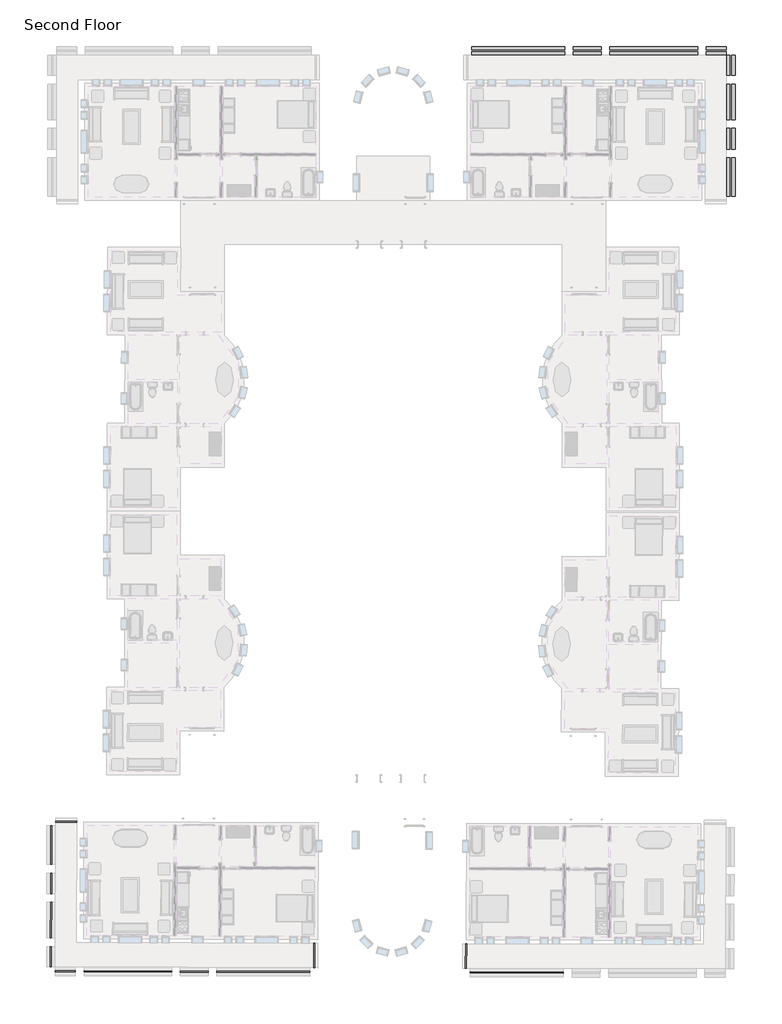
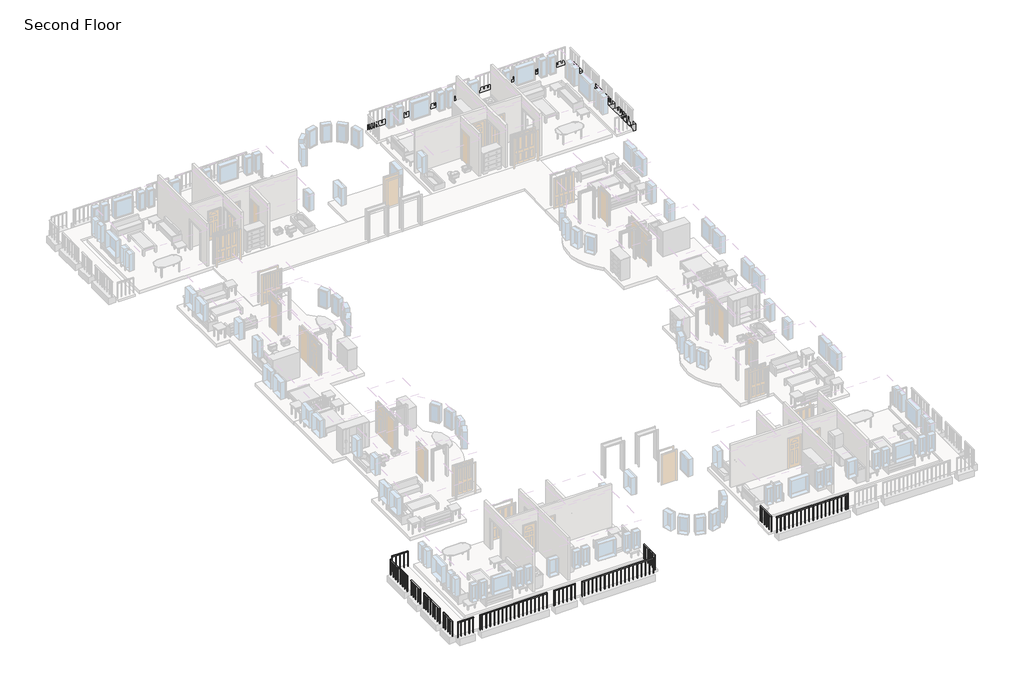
# One storey, part 4 of 8: 12 railings, 2 beams.
"""IFC4 building model written with IfcOpenShell, lengths in millimetres."""

from ifc_helpers import new_model, si_unit, frame, origin, place, context, project, spatial, polyline, outline, extrude, element, save

model = new_model("IFC4")

# Units and contexts
model_context = context("Model", 3, world=origin())
ifc_project = project(units=[si_unit("LENGTHUNIT", "METRE", prefix="MILLI")], contexts=[model_context])

# Site, building, storey
site = spatial("IfcSite", under=ifc_project)
building = spatial("IfcBuilding", under=site)
storey = spatial("IfcBuildingStorey", under=building, Name="Second Floor", Elevation=3048.0)

# Beams
placement = place(None, origin())
element("IfcBeam", 1, ObjectType="M_Concrete-Rectangular Beam : 450 x 450", at=placement, inside=storey, context=model_context, shape_type="SweptSolid", body=[
    extrude(outline(polyline([(-1643.3416203, 4481.1188386), (-1643.3416203, 4031.1188386), (-2693.3416203, 4031.1188386), (-2693.3416203, 4481.1188386), (-1643.3416203, 4481.1188386)])), frame((0.0, 0.0, 2598.0), z_axis=(0.0, 0.0, 1.0), x_axis=(1.0, 0.0, 0.0)), (0.0, 0.0, 1.0), 450.0),
    extrude(outline(polyline([(-14885.3416203, 4031.1188386), (-14885.3416203, 4481.1188386), (-10043.3416203, 4481.1188386), (-10043.3416203, 4031.1188386), (-14885.3416203, 4031.1188386)])), frame((0.0, 0.0, 2598.0), z_axis=(0.0, 0.0, 1.0), x_axis=(1.0, 0.0, 0.0)), (0.0, 0.0, 1.0), 450.0),
    extrude(outline(polyline([(-3143.3416203, 4481.1188386), (-3143.3416203, 4031.1188386), (-7693.3416203, 4031.1188386), (-7693.3416203, 4481.1188386), (-3143.3416203, 4481.1188386)])), frame((0.0, 0.0, 2598.0), z_axis=(0.0, 0.0, 1.0), x_axis=(1.0, 0.0, 0.0)), (0.0, 0.0, 1.0), 450.0),
    extrude(outline(polyline([(-8143.3416203, 4481.1188386), (-8143.3416203, 4031.1188386), (-9593.3416203, 4031.1188386), (-9593.3416203, 4481.1188386), (-8143.3416203, 4481.1188386)])), frame((0.0, 0.0, 2598.0), z_axis=(0.0, 0.0, 1.0), x_axis=(1.0, 0.0, 0.0)), (0.0, 0.0, 1.0), 450.0),
])
element("IfcBeam", 2, ObjectType="M_Concrete-Rectangular Beam : 450 x 450", at=placement, inside=storey, context=model_context, shape_type="SweptSolid", body=[
    extrude(outline(polyline([(-1643.3416203, 4031.1188386), (-1193.3416203, 4031.1188386), (-1193.3416203, 2981.1188386), (-1643.3416203, 2981.1188386), (-1643.3416203, 4031.1188386)])), frame((0.0, 0.0, 2598.0), z_axis=(0.0, 0.0, 1.0), x_axis=(1.0, 0.0, 0.0)), (0.0, 0.0, 1.0), 450.0),
    extrude(outline(polyline([(-1193.3416203, -3289.8811614), (-1643.3416203, -3289.8811614), (-1643.3416203, -1295.3811614), (-1193.3416203, -1295.3811614), (-1193.3416203, -3289.8811614)])), frame((0.0, 0.0, 2598.0), z_axis=(0.0, 0.0, 1.0), x_axis=(1.0, 0.0, 0.0)), (0.0, 0.0, 1.0), 450.0),
    extrude(outline(polyline([(-1643.3416203, 2531.1188386), (-1193.3416203, 2531.1188386), (-1193.3416203, 681.1188386), (-1643.3416203, 681.1188386), (-1643.3416203, 2531.1188386)])), frame((0.0, 0.0, 2598.0), z_axis=(0.0, 0.0, 1.0), x_axis=(1.0, 0.0, 0.0)), (0.0, 0.0, 1.0), 450.0),
    extrude(outline(polyline([(-1643.3416203, 231.1188386), (-1193.3416203, 231.1188386), (-1193.3416203, -845.3811614), (-1643.3416203, -845.3811614), (-1643.3416203, 231.1188386)])), frame((0.0, 0.0, 2598.0), z_axis=(0.0, 0.0, 1.0), x_axis=(1.0, 0.0, 0.0)), (0.0, 0.0, 1.0), 450.0),
])

# Railings
element("IfcRailing", 3, ObjectType="1100mm", at=placement, inside=storey, context=model_context, shape_type="SweptSolid", body=[
    extrude(outline(polyline([(-14954.7371889, -43662.8708828), (-14954.5924462, -43612.8710923), (-10112.6127346, -43626.8879749), (-10112.7574773, -43676.8877654), (-14954.7371889, -43662.8708828)])), frame((0.0, 0.0, 4098.0), z_axis=(0.0, 0.0, 1.0), x_axis=(1.0, 0.0, 0.0)), (0.0, 0.0, 1.0), 50.0),
    extrude(outline(polyline([(-10292.1481682, -43638.8682963), (-10267.1482729, -43638.9406676), (-10267.2206443, -43663.9405629), (-10292.2205395, -43663.8681915), (-10292.1481682, -43638.8682963)])), frame((0.0, 0.0, 3048.0), z_axis=(0.0, 0.0, 1.0), x_axis=(1.0, 0.0, 0.0)), (0.0, 0.0, 1.0), 1050.0),
    extrude(outline(polyline([(-10567.1470159, -43638.0722115), (-10542.1471207, -43638.1445828), (-10542.219492, -43663.144478), (-10567.2193872, -43663.0721067), (-10567.1470159, -43638.0722115)])), frame((0.0, 0.0, 3048.0), z_axis=(0.0, 0.0, 1.0), x_axis=(1.0, 0.0, 0.0)), (0.0, 0.0, 1.0), 1050.0),
    extrude(outline(polyline([(-10842.1458636, -43637.2761266), (-10817.1459684, -43637.348498), (-10817.2183397, -43662.3483932), (-10842.218235, -43662.2760219), (-10842.1458636, -43637.2761266)])), frame((0.0, 0.0, 3048.0), z_axis=(0.0, 0.0, 1.0), x_axis=(1.0, 0.0, 0.0)), (0.0, 0.0, 1.0), 1050.0),
    extrude(outline(polyline([(-11117.1447113, -43636.4800418), (-11092.1448161, -43636.5524131), (-11092.2171874, -43661.5523084), (-11117.2170827, -43661.479937), (-11117.1447113, -43636.4800418)])), frame((0.0, 0.0, 3048.0), z_axis=(0.0, 0.0, 1.0), x_axis=(1.0, 0.0, 0.0)), (0.0, 0.0, 1.0), 1050.0),
    extrude(outline(polyline([(-11392.1435591, -43635.683957), (-11367.1436638, -43635.7563283), (-11367.2160352, -43660.7562236), (-11392.2159304, -43660.6838522), (-11392.1435591, -43635.683957)])), frame((0.0, 0.0, 3048.0), z_axis=(0.0, 0.0, 1.0), x_axis=(1.0, 0.0, 0.0)), (0.0, 0.0, 1.0), 1050.0),
    extrude(outline(polyline([(-11667.1424068, -43634.8878721), (-11642.1425115, -43634.9602435), (-11642.2148829, -43659.9601387), (-11667.2147781, -43659.8877674), (-11667.1424068, -43634.8878721)])), frame((0.0, 0.0, 3048.0), z_axis=(0.0, 0.0, 1.0), x_axis=(1.0, 0.0, 0.0)), (0.0, 0.0, 1.0), 1050.0),
    extrude(outline(polyline([(-11942.1412545, -43634.0917873), (-11917.1413593, -43634.1641587), (-11917.2137306, -43659.1640539), (-11942.2136259, -43659.0916826), (-11942.1412545, -43634.0917873)])), frame((0.0, 0.0, 3048.0), z_axis=(0.0, 0.0, 1.0), x_axis=(1.0, 0.0, 0.0)), (0.0, 0.0, 1.0), 1050.0),
    extrude(outline(polyline([(-12217.1401022, -43633.2957025), (-12192.140207, -43633.3680738), (-12192.2125783, -43658.3679691), (-12217.2124736, -43658.2955977), (-12217.1401022, -43633.2957025)])), frame((0.0, 0.0, 3048.0), z_axis=(0.0, 0.0, 1.0), x_axis=(1.0, 0.0, 0.0)), (0.0, 0.0, 1.0), 1050.0),
    extrude(outline(polyline([(-12492.13895, -43632.4996177), (-12467.1390547, -43632.571989), (-12467.2114261, -43657.5718843), (-12492.2113213, -43657.4995129), (-12492.13895, -43632.4996177)])), frame((0.0, 0.0, 3048.0), z_axis=(0.0, 0.0, 1.0), x_axis=(1.0, 0.0, 0.0)), (0.0, 0.0, 1.0), 1050.0),
    extrude(outline(polyline([(-12767.1377977, -43631.7035328), (-12742.1379024, -43631.7759042), (-12742.2102738, -43656.7757994), (-12767.210169, -43656.7034281), (-12767.1377977, -43631.7035328)])), frame((0.0, 0.0, 3048.0), z_axis=(0.0, 0.0, 1.0), x_axis=(1.0, 0.0, 0.0)), (0.0, 0.0, 1.0), 1050.0),
    extrude(outline(polyline([(-13042.1366454, -43630.907448), (-13017.1367502, -43630.9798194), (-13017.2091215, -43655.9797146), (-13042.2090168, -43655.9073433), (-13042.1366454, -43630.907448)])), frame((0.0, 0.0, 3048.0), z_axis=(0.0, 0.0, 1.0), x_axis=(1.0, 0.0, 0.0)), (0.0, 0.0, 1.0), 1050.0),
    extrude(outline(polyline([(-13317.1354931, -43630.1113632), (-13292.1355979, -43630.1837345), (-13292.2079692, -43655.1836298), (-13317.2078645, -43655.1112584), (-13317.1354931, -43630.1113632)])), frame((0.0, 0.0, 3048.0), z_axis=(0.0, 0.0, 1.0), x_axis=(1.0, 0.0, 0.0)), (0.0, 0.0, 1.0), 1050.0),
    extrude(outline(polyline([(-13592.1343409, -43629.3152784), (-13567.1344456, -43629.3876497), (-13567.206817, -43654.387545), (-13592.2067122, -43654.3151736), (-13592.1343409, -43629.3152784)])), frame((0.0, 0.0, 3048.0), z_axis=(0.0, 0.0, 1.0), x_axis=(1.0, 0.0, 0.0)), (0.0, 0.0, 1.0), 1050.0),
    extrude(outline(polyline([(-13867.1331886, -43628.5191935), (-13842.1332933, -43628.5915649), (-13842.2056647, -43653.5914601), (-13867.2055599, -43653.5190888), (-13867.1331886, -43628.5191935)])), frame((0.0, 0.0, 3048.0), z_axis=(0.0, 0.0, 1.0), x_axis=(1.0, 0.0, 0.0)), (0.0, 0.0, 1.0), 1050.0),
    extrude(outline(polyline([(-14142.1320363, -43627.7231087), (-14117.1321411, -43627.7954801), (-14117.2045124, -43652.7953753), (-14142.2044076, -43652.723004), (-14142.1320363, -43627.7231087)])), frame((0.0, 0.0, 3048.0), z_axis=(0.0, 0.0, 1.0), x_axis=(1.0, 0.0, 0.0)), (0.0, 0.0, 1.0), 1050.0),
    extrude(outline(polyline([(-14417.130884, -43626.9270239), (-14392.1309888, -43626.9993952), (-14392.2033601, -43651.9992905), (-14417.2032554, -43651.9269191), (-14417.130884, -43626.9270239)])), frame((0.0, 0.0, 3048.0), z_axis=(0.0, 0.0, 1.0), x_axis=(1.0, 0.0, 0.0)), (0.0, 0.0, 1.0), 1050.0),
    extrude(outline(polyline([(-14692.1297317, -43626.1309391), (-14667.1298365, -43626.2033104), (-14667.2022078, -43651.2032057), (-14692.2021031, -43651.1308343), (-14692.1297317, -43626.1309391)])), frame((0.0, 0.0, 3048.0), z_axis=(0.0, 0.0, 1.0), x_axis=(1.0, 0.0, 0.0)), (0.0, 0.0, 1.0), 1050.0),
    extrude(outline(polyline([(-10137.6488155, -43639.3155512), (-10112.6489203, -43639.3879226), (-10112.7212916, -43664.3878178), (-10137.7211869, -43664.3154465), (-10137.6488155, -43639.3155512)])), frame((0.0, 0.0, 3048.0), z_axis=(0.0, 0.0, 1.0), x_axis=(1.0, 0.0, 0.0)), (0.0, 0.0, 1.0), 1050.0),
    extrude(outline(polyline([(-14954.6286318, -43625.3710399), (-14929.6287366, -43625.4434113), (-14929.7011079, -43650.4433065), (-14954.7010032, -43650.3709351), (-14954.6286318, -43625.3710399)])), frame((0.0, 0.0, 3048.0), z_axis=(0.0, 0.0, 1.0), x_axis=(1.0, 0.0, 0.0)), (0.0, 0.0, 1.0), 1050.0),
])
element("IfcRailing", 4, ObjectType="1100mm", at=placement, inside=storey, context=model_context, shape_type="SweptSolid", body=[
    extrude(outline(polyline([(-15154.0126374, -43412.2929595), (-15204.0124279, -43412.1482168), (-15200.3214891, -42137.1535592), (-15150.3216986, -42137.2983019), (-15154.0126374, -43412.2929595)])), frame((0.0, 0.0, 4098.0), z_axis=(0.0, 0.0, 1.0), x_axis=(1.0, 0.0, 0.0)), (0.0, 0.0, 1.0), 50.0),
    extrude(outline(polyline([(-15188.3643266, -42324.6889592), (-15188.2919553, -42299.689064), (-15163.29206, -42299.7614353), (-15163.3644314, -42324.7613306), (-15188.3643266, -42324.6889592)])), frame((0.0, 0.0, 3048.0), z_axis=(0.0, 0.0, 1.0), x_axis=(1.0, 0.0, 0.0)), (0.0, 0.0, 1.0), 1050.0),
    extrude(outline(polyline([(-15189.1604114, -42599.6878069), (-15189.0880401, -42574.6879117), (-15164.0881448, -42574.760283), (-15164.1605162, -42599.7601783), (-15189.1604114, -42599.6878069)])), frame((0.0, 0.0, 3048.0), z_axis=(0.0, 0.0, 1.0), x_axis=(1.0, 0.0, 0.0)), (0.0, 0.0, 1.0), 1050.0),
    extrude(outline(polyline([(-15189.9564963, -42874.6866547), (-15189.8841249, -42849.6867594), (-15164.8842297, -42849.7591308), (-15164.956601, -42874.759026), (-15189.9564963, -42874.6866547)])), frame((0.0, 0.0, 3048.0), z_axis=(0.0, 0.0, 1.0), x_axis=(1.0, 0.0, 0.0)), (0.0, 0.0, 1.0), 1050.0),
    extrude(outline(polyline([(-15190.7525811, -43149.6855024), (-15190.6802097, -43124.6856071), (-15165.6803145, -43124.7579785), (-15165.7526858, -43149.7578737), (-15190.7525811, -43149.6855024)])), frame((0.0, 0.0, 3048.0), z_axis=(0.0, 0.0, 1.0), x_axis=(1.0, 0.0, 0.0)), (0.0, 0.0, 1.0), 1050.0),
    extrude(outline(polyline([(-15187.8939128, -42162.1896401), (-15187.8215415, -42137.1897449), (-15162.8216462, -42137.2621162), (-15162.8940176, -42162.2620115), (-15187.8939128, -42162.1896401)])), frame((0.0, 0.0, 3048.0), z_axis=(0.0, 0.0, 1.0), x_axis=(1.0, 0.0, 0.0)), (0.0, 0.0, 1.0), 1050.0),
    extrude(outline(polyline([(-15191.5124802, -43412.1844025), (-15191.4401089, -43387.1845072), (-15166.4402136, -43387.2568786), (-15166.512585, -43412.2567738), (-15191.5124802, -43412.1844025)])), frame((0.0, 0.0, 3048.0), z_axis=(0.0, 0.0, 1.0), x_axis=(1.0, 0.0, 0.0)), (0.0, 0.0, 1.0), 1050.0),
])
element("IfcRailing", 5, ObjectType="1100mm", at=placement, inside=storey, context=model_context, shape_type="SweptSolid", body=[
    extrude(outline(polyline([(-23286.0575364, -43588.7526169), (-23286.2022791, -43638.7524074), (-28128.1819906, -43624.7355247), (-28128.0372479, -43574.7357342), (-23286.0575364, -43588.7526169)])), frame((0.0, 0.0, 4098.0), z_axis=(0.0, 0.0, 1.0), x_axis=(1.0, 0.0, 0.0)), (0.0, 0.0, 1.0), 50.0),
    extrude(outline(polyline([(-27948.5741857, -43587.7553081), (-27948.6465571, -43612.7552034), (-27973.6464523, -43612.682832), (-27973.574081, -43587.6829368), (-27948.5741857, -43587.7553081)])), frame((0.0, 0.0, 3048.0), z_axis=(0.0, 0.0, 1.0), x_axis=(1.0, 0.0, 0.0)), (0.0, 0.0, 1.0), 1050.0),
    extrude(outline(polyline([(-27673.575338, -43588.551393), (-27673.6477093, -43613.5512882), (-27698.6476046, -43613.4789169), (-27698.5752332, -43588.4790216), (-27673.575338, -43588.551393)])), frame((0.0, 0.0, 3048.0), z_axis=(0.0, 0.0, 1.0), x_axis=(1.0, 0.0, 0.0)), (0.0, 0.0, 1.0), 1050.0),
    extrude(outline(polyline([(-27398.5764903, -43589.3474778), (-27398.6488616, -43614.347373), (-27423.6487569, -43614.2750017), (-27423.5763855, -43589.2751064), (-27398.5764903, -43589.3474778)])), frame((0.0, 0.0, 3048.0), z_axis=(0.0, 0.0, 1.0), x_axis=(1.0, 0.0, 0.0)), (0.0, 0.0, 1.0), 1050.0),
    extrude(outline(polyline([(-27123.5776425, -43590.1435626), (-27123.6500139, -43615.1434579), (-27148.6499091, -43615.0710865), (-27148.5775378, -43590.0711913), (-27123.5776425, -43590.1435626)])), frame((0.0, 0.0, 3048.0), z_axis=(0.0, 0.0, 1.0), x_axis=(1.0, 0.0, 0.0)), (0.0, 0.0, 1.0), 1050.0),
    extrude(outline(polyline([(-26848.5787948, -43590.9396474), (-26848.6511662, -43615.9395427), (-26873.6510614, -43615.8671713), (-26873.5786901, -43590.8672761), (-26848.5787948, -43590.9396474)])), frame((0.0, 0.0, 3048.0), z_axis=(0.0, 0.0, 1.0), x_axis=(1.0, 0.0, 0.0)), (0.0, 0.0, 1.0), 1050.0),
    extrude(outline(polyline([(-26573.5799471, -43591.7357323), (-26573.6523184, -43616.7356275), (-26598.6522137, -43616.6632562), (-26598.5798423, -43591.6633609), (-26573.5799471, -43591.7357323)])), frame((0.0, 0.0, 3048.0), z_axis=(0.0, 0.0, 1.0), x_axis=(1.0, 0.0, 0.0)), (0.0, 0.0, 1.0), 1050.0),
    extrude(outline(polyline([(-26298.5810994, -43592.5318171), (-26298.6534707, -43617.5317123), (-26323.653366, -43617.459341), (-26323.5809946, -43592.4594458), (-26298.5810994, -43592.5318171)])), frame((0.0, 0.0, 3048.0), z_axis=(0.0, 0.0, 1.0), x_axis=(1.0, 0.0, 0.0)), (0.0, 0.0, 1.0), 1050.0),
    extrude(outline(polyline([(-26023.5822516, -43593.3279019), (-26023.654623, -43618.3277972), (-26048.6545182, -43618.2554258), (-26048.5821469, -43593.2555306), (-26023.5822516, -43593.3279019)])), frame((0.0, 0.0, 3048.0), z_axis=(0.0, 0.0, 1.0), x_axis=(1.0, 0.0, 0.0)), (0.0, 0.0, 1.0), 1050.0),
    extrude(outline(polyline([(-25748.5834039, -43594.1239868), (-25748.6557753, -43619.123882), (-25773.6556705, -43619.0515107), (-25773.5832992, -43594.0516154), (-25748.5834039, -43594.1239868)])), frame((0.0, 0.0, 3048.0), z_axis=(0.0, 0.0, 1.0), x_axis=(1.0, 0.0, 0.0)), (0.0, 0.0, 1.0), 1050.0),
    extrude(outline(polyline([(-25473.5845562, -43594.9200716), (-25473.6569275, -43619.9199668), (-25498.6568228, -43619.8475955), (-25498.5844514, -43594.8477002), (-25473.5845562, -43594.9200716)])), frame((0.0, 0.0, 3048.0), z_axis=(0.0, 0.0, 1.0), x_axis=(1.0, 0.0, 0.0)), (0.0, 0.0, 1.0), 1050.0),
    extrude(outline(polyline([(-25198.5857085, -43595.7161564), (-25198.6580798, -43620.7160517), (-25223.6579751, -43620.6436803), (-25223.5856037, -43595.6437851), (-25198.5857085, -43595.7161564)])), frame((0.0, 0.0, 3048.0), z_axis=(0.0, 0.0, 1.0), x_axis=(1.0, 0.0, 0.0)), (0.0, 0.0, 1.0), 1050.0),
    extrude(outline(polyline([(-24923.5868608, -43596.5122412), (-24923.6592321, -43621.5121365), (-24948.6591273, -43621.4397651), (-24948.586756, -43596.4398699), (-24923.5868608, -43596.5122412)])), frame((0.0, 0.0, 3048.0), z_axis=(0.0, 0.0, 1.0), x_axis=(1.0, 0.0, 0.0)), (0.0, 0.0, 1.0), 1050.0),
    extrude(outline(polyline([(-24648.588013, -43597.3083261), (-24648.6603844, -43622.3082213), (-24673.6602796, -43622.23585), (-24673.5879083, -43597.2359547), (-24648.588013, -43597.3083261)])), frame((0.0, 0.0, 3048.0), z_axis=(0.0, 0.0, 1.0), x_axis=(1.0, 0.0, 0.0)), (0.0, 0.0, 1.0), 1050.0),
    extrude(outline(polyline([(-24373.5891653, -43598.1044109), (-24373.6615367, -43623.1043061), (-24398.6614319, -43623.0319348), (-24398.5890606, -43598.0320395), (-24373.5891653, -43598.1044109)])), frame((0.0, 0.0, 3048.0), z_axis=(0.0, 0.0, 1.0), x_axis=(1.0, 0.0, 0.0)), (0.0, 0.0, 1.0), 1050.0),
    extrude(outline(polyline([(-24098.5903176, -43598.9004957), (-24098.6626889, -43623.900391), (-24123.6625842, -43623.8280196), (-24123.5902128, -43598.8281244), (-24098.5903176, -43598.9004957)])), frame((0.0, 0.0, 3048.0), z_axis=(0.0, 0.0, 1.0), x_axis=(1.0, 0.0, 0.0)), (0.0, 0.0, 1.0), 1050.0),
    extrude(outline(polyline([(-23823.5914699, -43599.6965805), (-23823.6638412, -43624.6964758), (-23848.6637365, -43624.6241044), (-23848.5913651, -43599.6242092), (-23823.5914699, -43599.6965805)])), frame((0.0, 0.0, 3048.0), z_axis=(0.0, 0.0, 1.0), x_axis=(1.0, 0.0, 0.0)), (0.0, 0.0, 1.0), 1050.0),
    extrude(outline(polyline([(-23548.5926221, -43600.4926654), (-23548.6649935, -43625.4925606), (-23573.6648887, -43625.4201893), (-23573.5925174, -43600.420294), (-23548.5926221, -43600.4926654)])), frame((0.0, 0.0, 3048.0), z_axis=(0.0, 0.0, 1.0), x_axis=(1.0, 0.0, 0.0)), (0.0, 0.0, 1.0), 1050.0),
    extrude(outline(polyline([(-28103.0735383, -43587.3080532), (-28103.1459097, -43612.3079485), (-28128.1458049, -43612.2355771), (-28128.0734336, -43587.2356819), (-28103.0735383, -43587.3080532)])), frame((0.0, 0.0, 3048.0), z_axis=(0.0, 0.0, 1.0), x_axis=(1.0, 0.0, 0.0)), (0.0, 0.0, 1.0), 1050.0),
    extrude(outline(polyline([(-23286.093722, -43601.2525645), (-23286.1660934, -43626.2524598), (-23311.1659886, -43626.1800884), (-23311.0936173, -43601.1801932), (-23286.093722, -43601.2525645)])), frame((0.0, 0.0, 3048.0), z_axis=(0.0, 0.0, 1.0), x_axis=(1.0, 0.0, 0.0)), (0.0, 0.0, 1.0), 1050.0),
])
element("IfcRailing", 6, ObjectType="1100mm", at=placement, inside=storey, context=model_context, shape_type="SweptSolid", body=[
    extrude(outline(polyline([(-28578.0353624, -43573.43305), (-28578.1801051, -43623.4328405), (-30028.1740294, -43619.2353023), (-30028.0292867, -43569.2355118), (-28578.0353624, -43573.43305)])), frame((0.0, 0.0, 4098.0), z_axis=(0.0, 0.0, 1.0), x_axis=(1.0, 0.0, 0.0)), (0.0, 0.0, 1.0), 50.0),
    extrude(outline(polyline([(-29940.565839, -43581.9887591), (-29940.6382104, -43606.9886544), (-29965.6381056, -43606.916283), (-29965.5657343, -43581.9163878), (-29940.565839, -43581.9887591)])), frame((0.0, 0.0, 3048.0), z_axis=(0.0, 0.0, 1.0), x_axis=(1.0, 0.0, 0.0)), (0.0, 0.0, 1.0), 1050.0),
    extrude(outline(polyline([(-29665.5669913, -43582.784844), (-29665.6393627, -43607.7847392), (-29690.6392579, -43607.7123679), (-29690.5668866, -43582.7124726), (-29665.5669913, -43582.784844)])), frame((0.0, 0.0, 3048.0), z_axis=(0.0, 0.0, 1.0), x_axis=(1.0, 0.0, 0.0)), (0.0, 0.0, 1.0), 1050.0),
    extrude(outline(polyline([(-29390.5681436, -43583.5809288), (-29390.6405149, -43608.580824), (-29415.6404102, -43608.5084527), (-29415.5680388, -43583.5085574), (-29390.5681436, -43583.5809288)])), frame((0.0, 0.0, 3048.0), z_axis=(0.0, 0.0, 1.0), x_axis=(1.0, 0.0, 0.0)), (0.0, 0.0, 1.0), 1050.0),
    extrude(outline(polyline([(-29115.5692959, -43584.3770136), (-29115.6416672, -43609.3769089), (-29140.6415625, -43609.3045375), (-29140.5691911, -43584.3046423), (-29115.5692959, -43584.3770136)])), frame((0.0, 0.0, 3048.0), z_axis=(0.0, 0.0, 1.0), x_axis=(1.0, 0.0, 0.0)), (0.0, 0.0, 1.0), 1050.0),
    extrude(outline(polyline([(-28840.5704481, -43585.1730985), (-28840.6428195, -43610.1729937), (-28865.6427147, -43610.1006223), (-28865.5703434, -43585.1007271), (-28840.5704481, -43585.1730985)])), frame((0.0, 0.0, 3048.0), z_axis=(0.0, 0.0, 1.0), x_axis=(1.0, 0.0, 0.0)), (0.0, 0.0, 1.0), 1050.0),
    extrude(outline(polyline([(-30003.0655771, -43581.8078308), (-30003.1379485, -43606.807726), (-30028.1378437, -43606.7353547), (-30028.0654724, -43581.7354594), (-30003.0655771, -43581.8078308)])), frame((0.0, 0.0, 3048.0), z_axis=(0.0, 0.0, 1.0), x_axis=(1.0, 0.0, 0.0)), (0.0, 0.0, 1.0), 1050.0),
    extrude(outline(polyline([(-28578.071548, -43585.9329976), (-28578.1439194, -43610.9328929), (-28603.1438146, -43610.8605215), (-28603.0714433, -43585.8606263), (-28578.071548, -43585.9329976)])), frame((0.0, 0.0, 3048.0), z_axis=(0.0, 0.0, 1.0), x_axis=(1.0, 0.0, 0.0)), (0.0, 0.0, 1.0), 1050.0),
])
element("IfcRailing", 7, ObjectType="1100mm", at=placement, inside=storey, context=model_context, shape_type="SweptSolid", body=[
    extrude(outline(polyline([(-30478.0274012, -43567.9328275), (-30478.1721439, -43617.932618), (-35028.1530789, -43604.7610327), (-35028.0083362, -43554.7612422), (-30478.0274012, -43567.9328275)])), frame((0.0, 0.0, 4098.0), z_axis=(0.0, 0.0, 1.0), x_axis=(1.0, 0.0, 0.0)), (0.0, 0.0, 1.0), 50.0),
    extrude(outline(polyline([(-34865.5452028, -43567.7316036), (-34865.6175741, -43592.7314989), (-34890.6174694, -43592.6591275), (-34890.545098, -43567.6592323), (-34865.5452028, -43567.7316036)])), frame((0.0, 0.0, 3048.0), z_axis=(0.0, 0.0, 1.0), x_axis=(1.0, 0.0, 0.0)), (0.0, 0.0, 1.0), 1050.0),
    extrude(outline(polyline([(-34590.5463551, -43568.5276884), (-34590.6187264, -43593.5275837), (-34615.6186217, -43593.4552123), (-34615.5462503, -43568.4553171), (-34590.5463551, -43568.5276884)])), frame((0.0, 0.0, 3048.0), z_axis=(0.0, 0.0, 1.0), x_axis=(1.0, 0.0, 0.0)), (0.0, 0.0, 1.0), 1050.0),
    extrude(outline(polyline([(-34315.5475073, -43569.3237733), (-34315.6198787, -43594.3236685), (-34340.6197739, -43594.2512972), (-34340.5474026, -43569.2514019), (-34315.5475073, -43569.3237733)])), frame((0.0, 0.0, 3048.0), z_axis=(0.0, 0.0, 1.0), x_axis=(1.0, 0.0, 0.0)), (0.0, 0.0, 1.0), 1050.0),
    extrude(outline(polyline([(-34040.5486596, -43570.1198581), (-34040.621031, -43595.1197533), (-34065.6209262, -43595.047382), (-34065.5485549, -43570.0474867), (-34040.5486596, -43570.1198581)])), frame((0.0, 0.0, 3048.0), z_axis=(0.0, 0.0, 1.0), x_axis=(1.0, 0.0, 0.0)), (0.0, 0.0, 1.0), 1050.0),
    extrude(outline(polyline([(-33765.5498119, -43570.9159429), (-33765.6221833, -43595.9158382), (-33790.6220785, -43595.8434668), (-33790.5497072, -43570.8435716), (-33765.5498119, -43570.9159429)])), frame((0.0, 0.0, 3048.0), z_axis=(0.0, 0.0, 1.0), x_axis=(1.0, 0.0, 0.0)), (0.0, 0.0, 1.0), 1050.0),
    extrude(outline(polyline([(-33490.5509642, -43571.7120277), (-33490.6233355, -43596.711923), (-33515.6232308, -43596.6395516), (-33515.5508594, -43571.6396564), (-33490.5509642, -43571.7120277)])), frame((0.0, 0.0, 3048.0), z_axis=(0.0, 0.0, 1.0), x_axis=(1.0, 0.0, 0.0)), (0.0, 0.0, 1.0), 1050.0),
    extrude(outline(polyline([(-33215.5521165, -43572.5081126), (-33215.6244878, -43597.5080078), (-33240.6243831, -43597.4356365), (-33240.5520117, -43572.4357412), (-33215.5521165, -43572.5081126)])), frame((0.0, 0.0, 3048.0), z_axis=(0.0, 0.0, 1.0), x_axis=(1.0, 0.0, 0.0)), (0.0, 0.0, 1.0), 1050.0),
    extrude(outline(polyline([(-32940.5532687, -43573.3041974), (-32940.6256401, -43598.3040926), (-32965.6255353, -43598.2317213), (-32965.553164, -43573.2318261), (-32940.5532687, -43573.3041974)])), frame((0.0, 0.0, 3048.0), z_axis=(0.0, 0.0, 1.0), x_axis=(1.0, 0.0, 0.0)), (0.0, 0.0, 1.0), 1050.0),
    extrude(outline(polyline([(-32665.554421, -43574.1002822), (-32665.6267924, -43599.1001775), (-32690.6266876, -43599.0278061), (-32690.5543163, -43574.0279109), (-32665.554421, -43574.1002822)])), frame((0.0, 0.0, 3048.0), z_axis=(0.0, 0.0, 1.0), x_axis=(1.0, 0.0, 0.0)), (0.0, 0.0, 1.0), 1050.0),
    extrude(outline(polyline([(-32390.5555733, -43574.8963671), (-32390.6279446, -43599.8962623), (-32415.6278399, -43599.823891), (-32415.5554685, -43574.8239957), (-32390.5555733, -43574.8963671)])), frame((0.0, 0.0, 3048.0), z_axis=(0.0, 0.0, 1.0), x_axis=(1.0, 0.0, 0.0)), (0.0, 0.0, 1.0), 1050.0),
    extrude(outline(polyline([(-32115.5567256, -43575.6924519), (-32115.6290969, -43600.6923471), (-32140.6289922, -43600.6199758), (-32140.5566208, -43575.6200805), (-32115.5567256, -43575.6924519)])), frame((0.0, 0.0, 3048.0), z_axis=(0.0, 0.0, 1.0), x_axis=(1.0, 0.0, 0.0)), (0.0, 0.0, 1.0), 1050.0),
    extrude(outline(polyline([(-31840.5578778, -43576.4885367), (-31840.6302492, -43601.488432), (-31865.6301444, -43601.4160606), (-31865.5577731, -43576.4161654), (-31840.5578778, -43576.4885367)])), frame((0.0, 0.0, 3048.0), z_axis=(0.0, 0.0, 1.0), x_axis=(1.0, 0.0, 0.0)), (0.0, 0.0, 1.0), 1050.0),
    extrude(outline(polyline([(-31565.5590301, -43577.2846215), (-31565.6314015, -43602.2845168), (-31590.6312967, -43602.2121454), (-31590.5589254, -43577.2122502), (-31565.5590301, -43577.2846215)])), frame((0.0, 0.0, 3048.0), z_axis=(0.0, 0.0, 1.0), x_axis=(1.0, 0.0, 0.0)), (0.0, 0.0, 1.0), 1050.0),
    extrude(outline(polyline([(-31290.5601824, -43578.0807064), (-31290.6325537, -43603.0806016), (-31315.632449, -43603.0082303), (-31315.5600776, -43578.008335), (-31290.5601824, -43578.0807064)])), frame((0.0, 0.0, 3048.0), z_axis=(0.0, 0.0, 1.0), x_axis=(1.0, 0.0, 0.0)), (0.0, 0.0, 1.0), 1050.0),
    extrude(outline(polyline([(-31015.5613347, -43578.8767912), (-31015.633706, -43603.8766864), (-31040.6336013, -43603.8043151), (-31040.5612299, -43578.8044198), (-31015.5613347, -43578.8767912)])), frame((0.0, 0.0, 3048.0), z_axis=(0.0, 0.0, 1.0), x_axis=(1.0, 0.0, 0.0)), (0.0, 0.0, 1.0), 1050.0),
    extrude(outline(polyline([(-30740.562487, -43579.672876), (-30740.6348583, -43604.6727713), (-30765.6347535, -43604.6003999), (-30765.5623822, -43579.6005047), (-30740.562487, -43579.672876)])), frame((0.0, 0.0, 3048.0), z_axis=(0.0, 0.0, 1.0), x_axis=(1.0, 0.0, 0.0)), (0.0, 0.0, 1.0), 1050.0),
    extrude(outline(polyline([(-35003.0446267, -43567.3335612), (-35003.116998, -43592.3334565), (-35028.1168933, -43592.2610851), (-35028.0445219, -43567.2611899), (-35003.0446267, -43567.3335612)])), frame((0.0, 0.0, 3048.0), z_axis=(0.0, 0.0, 1.0), x_axis=(1.0, 0.0, 0.0)), (0.0, 0.0, 1.0), 1050.0),
    extrude(outline(polyline([(-30478.0635869, -43580.4327752), (-30478.1359582, -43605.4326704), (-30503.1358534, -43605.3602991), (-30503.0634821, -43580.3604038), (-30478.0635869, -43580.4327752)])), frame((0.0, 0.0, 3048.0), z_axis=(0.0, 0.0, 1.0), x_axis=(1.0, 0.0, 0.0)), (0.0, 0.0, 1.0), 1050.0),
])
element("IfcRailing", 8, ObjectType="1100mm", at=placement, inside=storey, context=model_context, shape_type="SweptSolid", body=[
    extrude(outline(polyline([(-35478.0064507, -43553.458558), (-35478.1511934, -43603.4583485), (-36528.1467938, -43600.4187519), (-36528.0020511, -43550.4189614), (-35478.0064507, -43553.458558)])), frame((0.0, 0.0, 4098.0), z_axis=(0.0, 0.0, 1.0), x_axis=(1.0, 0.0, 0.0)), (0.0, 0.0, 1.0), 50.0),
    extrude(outline(polyline([(-36290.5392319, -43563.6064368), (-36290.6116033, -43588.606332), (-36315.6114985, -43588.5339607), (-36315.5391272, -43563.5340654), (-36290.5392319, -43563.6064368)])), frame((0.0, 0.0, 3048.0), z_axis=(0.0, 0.0, 1.0), x_axis=(1.0, 0.0, 0.0)), (0.0, 0.0, 1.0), 1050.0),
    extrude(outline(polyline([(-36015.5403842, -43564.4025216), (-36015.6127555, -43589.4024169), (-36040.6126508, -43589.3300455), (-36040.5402794, -43564.3301503), (-36015.5403842, -43564.4025216)])), frame((0.0, 0.0, 3048.0), z_axis=(0.0, 0.0, 1.0), x_axis=(1.0, 0.0, 0.0)), (0.0, 0.0, 1.0), 1050.0),
    extrude(outline(polyline([(-35740.5415365, -43565.1986064), (-35740.6139078, -43590.1985017), (-35765.6138031, -43590.1261303), (-35765.5414317, -43565.1262351), (-35740.5415365, -43565.1986064)])), frame((0.0, 0.0, 3048.0), z_axis=(0.0, 0.0, 1.0), x_axis=(1.0, 0.0, 0.0)), (0.0, 0.0, 1.0), 1050.0),
    extrude(outline(polyline([(-36503.0383415, -43562.9912803), (-36503.1107129, -43587.9911756), (-36528.1106081, -43587.9188042), (-36528.0382368, -43562.918909), (-36503.0383415, -43562.9912803)])), frame((0.0, 0.0, 3048.0), z_axis=(0.0, 0.0, 1.0), x_axis=(1.0, 0.0, 0.0)), (0.0, 0.0, 1.0), 1050.0),
    extrude(outline(polyline([(-35478.0426364, -43565.9585056), (-35478.1150077, -43590.9584008), (-35503.114903, -43590.8860295), (-35503.0425316, -43565.8861342), (-35478.0426364, -43565.9585056)])), frame((0.0, 0.0, 3048.0), z_axis=(0.0, 0.0, 1.0), x_axis=(1.0, 0.0, 0.0)), (0.0, 0.0, 1.0), 1050.0),
])
element("IfcRailing", 9, ObjectType="1100mm", at=placement, inside=storey, context=model_context, shape_type="SweptSolid", body=[
    extrude(outline(polyline([(-36727.4222423, -43349.8408286), (-36777.4220328, -43349.6960859), (-36774.3824362, -42299.7004855), (-36724.3826457, -42299.8452282), (-36727.4222423, -43349.8408286)])), frame((0.0, 0.0, 4098.0), z_axis=(0.0, 0.0, 1.0), x_axis=(1.0, 0.0, 0.0)), (0.0, 0.0, 1.0), 50.0),
    extrude(outline(polyline([(-36737.5701211, -42537.3080474), (-36762.5700163, -42537.235676), (-36762.497645, -42512.2357808), (-36737.4977498, -42512.3081521), (-36737.5701211, -42537.3080474)])), frame((0.0, 0.0, 3048.0), z_axis=(0.0, 0.0, 1.0), x_axis=(1.0, 0.0, 0.0)), (0.0, 0.0, 1.0), 1050.0),
    extrude(outline(polyline([(-36738.3662059, -42812.3068951), (-36763.3661012, -42812.2345238), (-36763.2937298, -42787.2346285), (-36738.2938346, -42787.3069999), (-36738.3662059, -42812.3068951)])), frame((0.0, 0.0, 3048.0), z_axis=(0.0, 0.0, 1.0), x_axis=(1.0, 0.0, 0.0)), (0.0, 0.0, 1.0), 1050.0),
    extrude(outline(polyline([(-36739.1622908, -43087.3057428), (-36764.162186, -43087.2333715), (-36764.0898147, -43062.2334762), (-36739.0899194, -43062.3058476), (-36739.1622908, -43087.3057428)])), frame((0.0, 0.0, 3048.0), z_axis=(0.0, 0.0, 1.0), x_axis=(1.0, 0.0, 0.0)), (0.0, 0.0, 1.0), 1050.0),
    extrude(outline(polyline([(-36736.9549646, -42324.8089378), (-36761.9548599, -42324.7365664), (-36761.8824885, -42299.7366712), (-36736.8825933, -42299.8090425), (-36736.9549646, -42324.8089378)])), frame((0.0, 0.0, 3048.0), z_axis=(0.0, 0.0, 1.0), x_axis=(1.0, 0.0, 0.0)), (0.0, 0.0, 1.0), 1050.0),
    extrude(outline(polyline([(-36739.9221899, -43349.8046429), (-36764.9220852, -43349.7322716), (-36764.8497138, -43324.7323763), (-36739.8498186, -43324.8047477), (-36739.9221899, -43349.8046429)])), frame((0.0, 0.0, 3048.0), z_axis=(0.0, 0.0, 1.0), x_axis=(1.0, 0.0, 0.0)), (0.0, 0.0, 1.0), 1050.0),
])
element("IfcRailing", 10, ObjectType="1100mm", at=placement, inside=storey, context=model_context, shape_type="SweptSolid", body=[
    extrude(outline(polyline([(-36723.0799614, -41849.8471137), (-36773.0797519, -41849.702371), (-36767.7242722, -39999.7101227), (-36717.7244817, -39999.8548654), (-36723.0799614, -41849.8471137)])), frame((0.0, 0.0, 4098.0), z_axis=(0.0, 0.0, 1.0), x_axis=(1.0, 0.0, 0.0)), (0.0, 0.0, 1.0), 50.0),
    extrude(outline(polyline([(-36730.8395857, -40212.3177894), (-36755.839481, -40212.245418), (-36755.7671096, -40187.2455228), (-36730.7672144, -40187.3178941), (-36730.8395857, -40212.3177894)])), frame((0.0, 0.0, 3048.0), z_axis=(0.0, 0.0, 1.0), x_axis=(1.0, 0.0, 0.0)), (0.0, 0.0, 1.0), 1050.0),
    extrude(outline(polyline([(-36731.6356706, -40487.3166371), (-36756.6355658, -40487.2442657), (-36756.5631945, -40462.2443705), (-36731.5632992, -40462.3167418), (-36731.6356706, -40487.3166371)])), frame((0.0, 0.0, 3048.0), z_axis=(0.0, 0.0, 1.0), x_axis=(1.0, 0.0, 0.0)), (0.0, 0.0, 1.0), 1050.0),
    extrude(outline(polyline([(-36732.4317554, -40762.3154848), (-36757.4316506, -40762.2431135), (-36757.3592793, -40737.2432182), (-36732.3593841, -40737.3155896), (-36732.4317554, -40762.3154848)])), frame((0.0, 0.0, 3048.0), z_axis=(0.0, 0.0, 1.0), x_axis=(1.0, 0.0, 0.0)), (0.0, 0.0, 1.0), 1050.0),
    extrude(outline(polyline([(-36733.2278402, -41037.3143325), (-36758.2277355, -41037.2419612), (-36758.1553641, -41012.2420659), (-36733.1554689, -41012.3144373), (-36733.2278402, -41037.3143325)])), frame((0.0, 0.0, 3048.0), z_axis=(0.0, 0.0, 1.0), x_axis=(1.0, 0.0, 0.0)), (0.0, 0.0, 1.0), 1050.0),
    extrude(outline(polyline([(-36734.0239251, -41312.3131802), (-36759.0238203, -41312.2408089), (-36758.951449, -41287.2409137), (-36733.9515537, -41287.313285), (-36734.0239251, -41312.3131802)])), frame((0.0, 0.0, 3048.0), z_axis=(0.0, 0.0, 1.0), x_axis=(1.0, 0.0, 0.0)), (0.0, 0.0, 1.0), 1050.0),
    extrude(outline(polyline([(-36734.8200099, -41587.312028), (-36759.8199051, -41587.2396566), (-36759.7475338, -41562.2397614), (-36734.7476385, -41562.3121327), (-36734.8200099, -41587.312028)])), frame((0.0, 0.0, 3048.0), z_axis=(0.0, 0.0, 1.0), x_axis=(1.0, 0.0, 0.0)), (0.0, 0.0, 1.0), 1050.0),
    extrude(outline(polyline([(-36730.2968006, -40024.818575), (-36755.2966959, -40024.7462037), (-36755.2243245, -39999.7463084), (-36730.2244293, -39999.8186798), (-36730.2968006, -40024.818575)])), frame((0.0, 0.0, 3048.0), z_axis=(0.0, 0.0, 1.0), x_axis=(1.0, 0.0, 0.0)), (0.0, 0.0, 1.0), 1050.0),
    extrude(outline(polyline([(-36735.579909, -41849.8109281), (-36760.5798043, -41849.7385567), (-36760.5074329, -41824.7386615), (-36735.5075377, -41824.8110328), (-36735.579909, -41849.8109281)])), frame((0.0, 0.0, 3048.0), z_axis=(0.0, 0.0, 1.0), x_axis=(1.0, 0.0, 0.0)), (0.0, 0.0, 1.0), 1050.0),
])
element("IfcRailing", 11, ObjectType="1100mm", at=placement, inside=storey, context=model_context, shape_type="SweptSolid", body=[
    extrude(outline(polyline([(-36716.4217974, -39549.856751), (-36766.4215879, -39549.7120083), (-36763.3052777, -38473.2165189), (-36713.3054872, -38473.3612616), (-36716.4217974, -39549.856751)])), frame((0.0, 0.0, 4098.0), z_axis=(0.0, 0.0, 1.0), x_axis=(1.0, 0.0, 0.0)), (0.0, 0.0, 1.0), 50.0),
    extrude(outline(polyline([(-36726.5696762, -38737.3239698), (-36751.5695715, -38737.2515984), (-36751.4972001, -38712.2517032), (-36726.4973049, -38712.3240745), (-36726.5696762, -38737.3239698)])), frame((0.0, 0.0, 3048.0), z_axis=(0.0, 0.0, 1.0), x_axis=(1.0, 0.0, 0.0)), (0.0, 0.0, 1.0), 1050.0),
    extrude(outline(polyline([(-36727.3657611, -39012.3228175), (-36752.3656563, -39012.2504461), (-36752.293285, -38987.2505509), (-36727.2933897, -38987.3229222), (-36727.3657611, -39012.3228175)])), frame((0.0, 0.0, 3048.0), z_axis=(0.0, 0.0, 1.0), x_axis=(1.0, 0.0, 0.0)), (0.0, 0.0, 1.0), 1050.0),
    extrude(outline(polyline([(-36728.1618459, -39287.3216652), (-36753.1617411, -39287.2492939), (-36753.0893698, -39262.2493986), (-36728.0894745, -39262.32177), (-36728.1618459, -39287.3216652)])), frame((0.0, 0.0, 3048.0), z_axis=(0.0, 0.0, 1.0), x_axis=(1.0, 0.0, 0.0)), (0.0, 0.0, 1.0), 1050.0),
    extrude(outline(polyline([(-36725.8778061, -38498.3249712), (-36750.8777014, -38498.2525998), (-36750.80533, -38473.2527046), (-36725.8054348, -38473.3250759), (-36725.8778061, -38498.3249712)])), frame((0.0, 0.0, 3048.0), z_axis=(0.0, 0.0, 1.0), x_axis=(1.0, 0.0, 0.0)), (0.0, 0.0, 1.0), 1050.0),
    extrude(outline(polyline([(-36728.921745, -39549.8205653), (-36753.9216403, -39549.7481939), (-36753.8492689, -39524.7482987), (-36728.8493737, -39524.8206701), (-36728.921745, -39549.8205653)])), frame((0.0, 0.0, 3048.0), z_axis=(0.0, 0.0, 1.0), x_axis=(1.0, 0.0, 0.0)), (0.0, 0.0, 1.0), 1050.0),
])
element("IfcRailing", 12, ObjectType="1100mm", at=placement, inside=storey, context=model_context, shape_type="SweptSolid", body=[
    extrude(outline(polyline([(-36712.0028029, -38023.3631472), (-36762.0025934, -38023.2184045), (-36756.2288073, -36028.7267616), (-36706.2290168, -36028.8715043), (-36712.0028029, -38023.3631472)])), frame((0.0, 0.0, 4098.0), z_axis=(0.0, 0.0, 1.0), x_axis=(1.0, 0.0, 0.0)), (0.0, 0.0, 1.0), 50.0),
    extrude(outline(polyline([(-36718.9663424, -36110.834975), (-36743.9662377, -36110.7626037), (-36743.8938663, -36085.7627085), (-36718.8939711, -36085.8350798), (-36718.9663424, -36110.834975)])), frame((0.0, 0.0, 3048.0), z_axis=(0.0, 0.0, 1.0), x_axis=(1.0, 0.0, 0.0)), (0.0, 0.0, 1.0), 1050.0),
    extrude(outline(polyline([(-36719.7624272, -36385.8338228), (-36744.7623225, -36385.7614514), (-36744.6899511, -36360.7615562), (-36719.6900559, -36360.8339275), (-36719.7624272, -36385.8338228)])), frame((0.0, 0.0, 3048.0), z_axis=(0.0, 0.0, 1.0), x_axis=(1.0, 0.0, 0.0)), (0.0, 0.0, 1.0), 1050.0),
    extrude(outline(polyline([(-36720.5585121, -36660.8326705), (-36745.5584073, -36660.7602991), (-36745.486036, -36635.7604039), (-36720.4861407, -36635.8327752), (-36720.5585121, -36660.8326705)])), frame((0.0, 0.0, 3048.0), z_axis=(0.0, 0.0, 1.0), x_axis=(1.0, 0.0, 0.0)), (0.0, 0.0, 1.0), 1050.0),
    extrude(outline(polyline([(-36721.3545969, -36935.8315182), (-36746.3544921, -36935.7591469), (-36746.2821208, -36910.7592516), (-36721.2822255, -36910.831623), (-36721.3545969, -36935.8315182)])), frame((0.0, 0.0, 3048.0), z_axis=(0.0, 0.0, 1.0), x_axis=(1.0, 0.0, 0.0)), (0.0, 0.0, 1.0), 1050.0),
    extrude(outline(polyline([(-36722.1506817, -37210.8303659), (-36747.150577, -37210.7579946), (-36747.0782056, -37185.7580993), (-36722.0783104, -37185.8304707), (-36722.1506817, -37210.8303659)])), frame((0.0, 0.0, 3048.0), z_axis=(0.0, 0.0, 1.0), x_axis=(1.0, 0.0, 0.0)), (0.0, 0.0, 1.0), 1050.0),
    extrude(outline(polyline([(-36722.9467666, -37485.8292137), (-36747.9466618, -37485.7568423), (-36747.8742905, -37460.7569471), (-36722.8743952, -37460.8293184), (-36722.9467666, -37485.8292137)])), frame((0.0, 0.0, 3048.0), z_axis=(0.0, 0.0, 1.0), x_axis=(1.0, 0.0, 0.0)), (0.0, 0.0, 1.0), 1050.0),
    extrude(outline(polyline([(-36723.7428514, -37760.8280614), (-36748.7427466, -37760.75569), (-36748.6703753, -37735.7557948), (-36723.67048, -37735.8281661), (-36723.7428514, -37760.8280614)])), frame((0.0, 0.0, 3048.0), z_axis=(0.0, 0.0, 1.0), x_axis=(1.0, 0.0, 0.0)), (0.0, 0.0, 1.0), 1050.0),
    extrude(outline(polyline([(-36718.8013357, -36053.8352139), (-36743.801231, -36053.7628425), (-36743.7288596, -36028.7629473), (-36718.7289644, -36028.8353186), (-36718.8013357, -36053.8352139)])), frame((0.0, 0.0, 3048.0), z_axis=(0.0, 0.0, 1.0), x_axis=(1.0, 0.0, 0.0)), (0.0, 0.0, 1.0), 1050.0),
    extrude(outline(polyline([(-36724.5027505, -38023.3269615), (-36749.5026458, -38023.2545901), (-36749.4302744, -37998.2546949), (-36724.4303792, -37998.3270662), (-36724.5027505, -38023.3269615)])), frame((0.0, 0.0, 3048.0), z_axis=(0.0, 0.0, 1.0), x_axis=(1.0, 0.0, 0.0)), (0.0, 0.0, 1.0), 1050.0),
])
element("IfcRailing", 13, ObjectType="1100mm", at=placement, inside=storey, context=model_context, shape_type="SweptSolid", body=[
    extrude(outline(polyline([(-36505.650884, -35829.4513131), (-36505.5061413, -35779.4515226), (-35405.5107504, -35782.6358619), (-35405.6554931, -35832.6356524), (-36505.650884, -35829.4513131)])), frame((0.0, 0.0, 4098.0), z_axis=(0.0, 0.0, 1.0), x_axis=(1.0, 0.0, 0.0)), (0.0, 0.0, 1.0), 50.0),
    extrude(outline(polyline([(-35693.1181028, -35819.3034343), (-35693.0457314, -35794.303539), (-35668.0458362, -35794.3759104), (-35668.1182075, -35819.3758056), (-35693.1181028, -35819.3034343)])), frame((0.0, 0.0, 3048.0), z_axis=(0.0, 0.0, 1.0), x_axis=(1.0, 0.0, 0.0)), (0.0, 0.0, 1.0), 1050.0),
    extrude(outline(polyline([(-35968.1169505, -35818.5073495), (-35968.0445792, -35793.5074542), (-35943.0446839, -35793.5798256), (-35943.1170553, -35818.5797208), (-35968.1169505, -35818.5073495)])), frame((0.0, 0.0, 3048.0), z_axis=(0.0, 0.0, 1.0), x_axis=(1.0, 0.0, 0.0)), (0.0, 0.0, 1.0), 1050.0),
    extrude(outline(polyline([(-36243.1157982, -35817.7112646), (-36243.0434269, -35792.7113694), (-36218.0435316, -35792.7837407), (-36218.115903, -35817.783636), (-36243.1157982, -35817.7112646)])), frame((0.0, 0.0, 3048.0), z_axis=(0.0, 0.0, 1.0), x_axis=(1.0, 0.0, 0.0)), (0.0, 0.0, 1.0), 1050.0),
    extrude(outline(polyline([(-35430.6192027, -35820.0633334), (-35430.5468313, -35795.0634382), (-35405.5469361, -35795.1358095), (-35405.6193074, -35820.1357048), (-35430.6192027, -35820.0633334)])), frame((0.0, 0.0, 3048.0), z_axis=(0.0, 0.0, 1.0), x_axis=(1.0, 0.0, 0.0)), (0.0, 0.0, 1.0), 1050.0),
    extrude(outline(polyline([(-36505.6146983, -35816.9513655), (-36505.542327, -35791.9514702), (-36480.5424317, -35792.0238416), (-36480.6148031, -35817.0237368), (-36505.6146983, -35816.9513655)])), frame((0.0, 0.0, 3048.0), z_axis=(0.0, 0.0, 1.0), x_axis=(1.0, 0.0, 0.0)), (0.0, 0.0, 1.0), 1050.0),
])
element("IfcRailing", 14, ObjectType="1100mm", at=placement, inside=storey, context=model_context, shape_type="SweptSolid", body=[
    extrude(outline(polyline([(-23035.4796131, -43389.4771684), (-23085.4794036, -43389.3324257), (-23081.7884649, -42114.3377681), (-23031.7886744, -42114.4825108), (-23035.4796131, -43389.4771684)])), frame((0.0, 0.0, 4098.0), z_axis=(0.0, 0.0, 1.0), x_axis=(1.0, 0.0, 0.0)), (0.0, 0.0, 1.0), 50.0),
    extrude(outline(polyline([(-23044.8314071, -42301.9455394), (-23069.8313023, -42301.8731681), (-23069.758931, -42276.8732729), (-23044.7590358, -42276.9456442), (-23044.8314071, -42301.9455394)])), frame((0.0, 0.0, 3048.0), z_axis=(0.0, 0.0, 1.0), x_axis=(1.0, 0.0, 0.0)), (0.0, 0.0, 1.0), 1050.0),
    extrude(outline(polyline([(-23045.6274919, -42576.9443872), (-23070.6273872, -42576.8720158), (-23070.5550158, -42551.8721206), (-23045.5551206, -42551.9444919), (-23045.6274919, -42576.9443872)])), frame((0.0, 0.0, 3048.0), z_axis=(0.0, 0.0, 1.0), x_axis=(1.0, 0.0, 0.0)), (0.0, 0.0, 1.0), 1050.0),
    extrude(outline(polyline([(-23046.4235768, -42851.9432349), (-23071.423472, -42851.8708635), (-23071.3511007, -42826.8709683), (-23046.3512054, -42826.9433396), (-23046.4235768, -42851.9432349)])), frame((0.0, 0.0, 3048.0), z_axis=(0.0, 0.0, 1.0), x_axis=(1.0, 0.0, 0.0)), (0.0, 0.0, 1.0), 1050.0),
    extrude(outline(polyline([(-23047.2196616, -43126.9420826), (-23072.2195568, -43126.8697113), (-23072.1471855, -43101.869816), (-23047.1472902, -43101.9421874), (-23047.2196616, -43126.9420826)])), frame((0.0, 0.0, 3048.0), z_axis=(0.0, 0.0, 1.0), x_axis=(1.0, 0.0, 0.0)), (0.0, 0.0, 1.0), 1050.0),
    extrude(outline(polyline([(-23044.3609933, -42139.4462203), (-23069.3608886, -42139.373849), (-23069.2885172, -42114.3739537), (-23044.288622, -42114.4463251), (-23044.3609933, -42139.4462203)])), frame((0.0, 0.0, 3048.0), z_axis=(0.0, 0.0, 1.0), x_axis=(1.0, 0.0, 0.0)), (0.0, 0.0, 1.0), 1050.0),
    extrude(outline(polyline([(-23047.9795607, -43389.4409827), (-23072.979456, -43389.3686114), (-23072.9070846, -43364.3687161), (-23047.9071894, -43364.4410875), (-23047.9795607, -43389.4409827)])), frame((0.0, 0.0, 3048.0), z_axis=(0.0, 0.0, 1.0), x_axis=(1.0, 0.0, 0.0)), (0.0, 0.0, 1.0), 1050.0),
])

save(model, "model.ifc")
